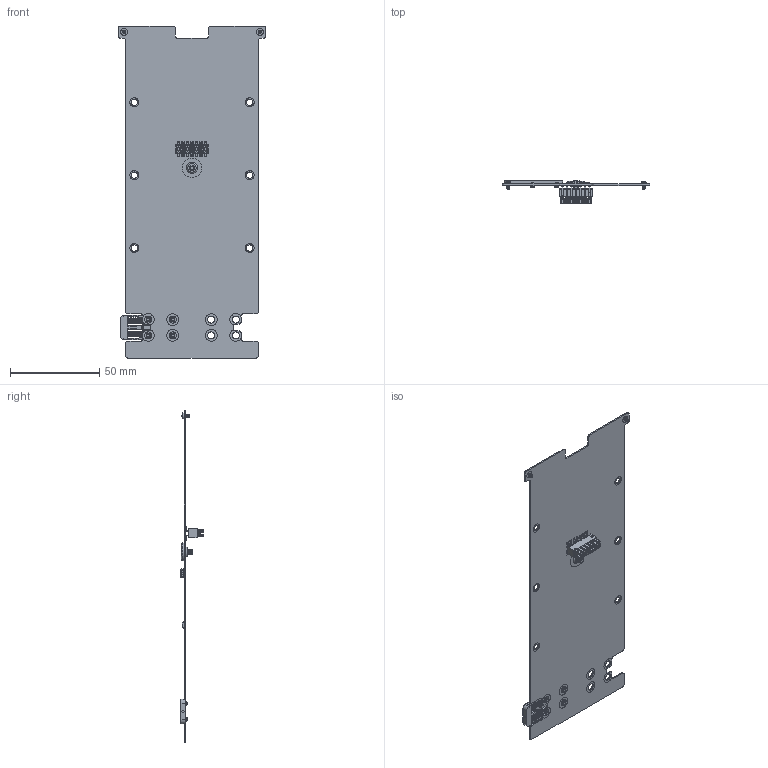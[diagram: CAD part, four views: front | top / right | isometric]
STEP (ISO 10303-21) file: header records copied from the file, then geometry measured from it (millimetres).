
FILE_DESCRIPTION (( 'STEP AP214' ), '1' );
FILE_NAME ('O1 -Y Side Panel.STEP', '2023-02-26T05:39:31', ( '' ), ( '' ), 'SwSTEP 2.0', 'SolidWorks 2020', '' );
FILE_SCHEMA (( 'AUTOMOTIVE_DESIGN' ));
Products named in the file (1): O1 -Y Side Panel
Bounding box: 82.55 x 13.31 x 186.29 mm (x, y, z)
Volume: 11577.2 mm3; surface area: 30914.2 mm2
Topology: 1 solids, 3 shells, 2583 faces, 7194 edges, 4582 vertices
Faces by surface type: plane 1659, cylinder 582, cone 232, torus 56, bspline 42, sphere 12
Entity records: 89764 total; most frequent: CARTESIAN_POINT 22619, ORIENTED_EDGE 14356, DIRECTION 13642, EDGE_CURVE 7178, VECTOR 5444, LINE 5444, VERTEX_POINT 4582, AXIS2_PLACEMENT_3D 4099
